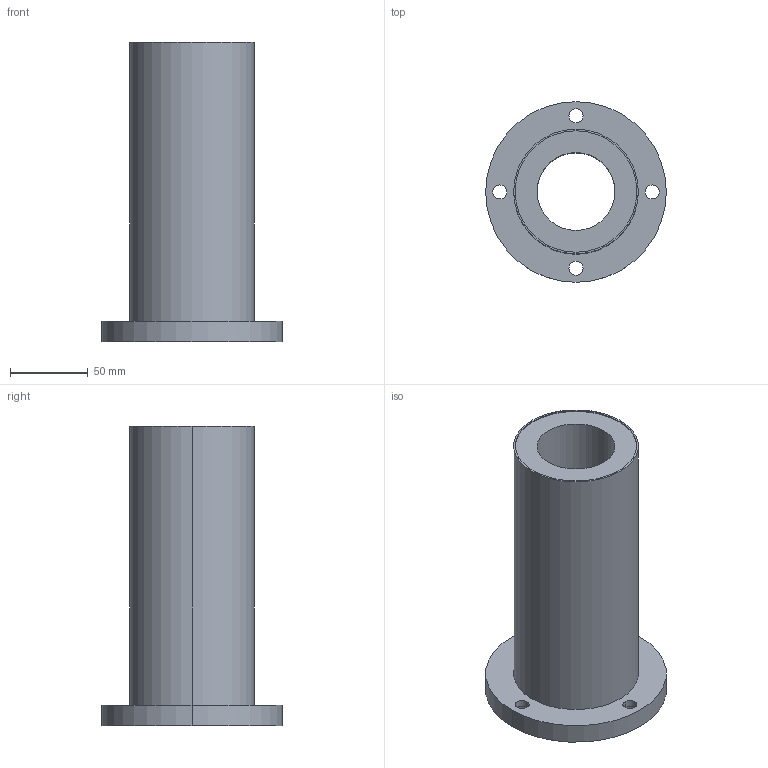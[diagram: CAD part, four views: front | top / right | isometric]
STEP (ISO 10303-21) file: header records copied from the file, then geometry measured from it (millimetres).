
FILE_DESCRIPTION((''),'2;1');
FILE_NAME('C:\Documents and Settings\ｿﾀﾀ蠑ｷ1\ｹﾙﾅﾁ ﾈｭｸ饅\ｺﾎﾇｰﾆﾄﾀﾏ\ﾁｦﾇｰ\LMF__LUU\LMF50LUU.stp','2005-06-15T09:44:31',('ｿﾀﾀ蠑ｷ1'),(''),'Autodesk Inventor 9','Autodesk Inventor 9','');
FILE_SCHEMA(('AUTOMOTIVE_DESIGN { 1 0 10303 214 1 1 1 1 }'));
Length unit declared in the file: millimetre
Products named in the file (1): LMF__
Bounding box: 116 x 116 x 192 mm (x, y, z)
Volume: 650563.2 mm3; surface area: 98694.4 mm2
Topology: 1 solids, 1 shells, 38 faces, 84 edges, 56 vertices
Faces by surface type: cylinder 28, plane 10
Entity records: 1127 total; most frequent: DIRECTION 218, CARTESIAN_POINT 179, ORIENTED_EDGE 168, AXIS2_PLACEMENT_3D 95, EDGE_CURVE 84, VERTEX_POINT 56, CIRCLE 56, EDGE_LOOP 56
